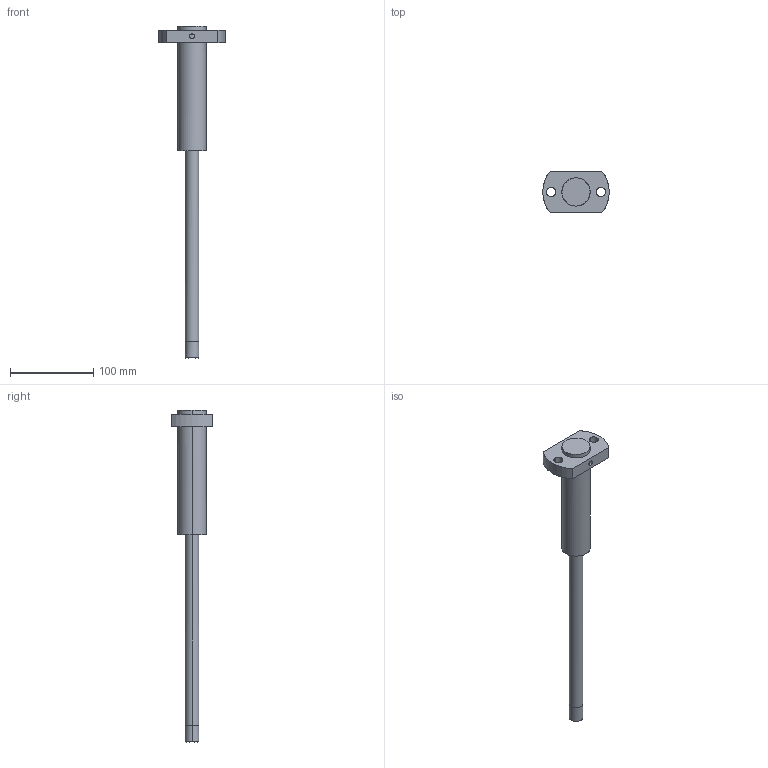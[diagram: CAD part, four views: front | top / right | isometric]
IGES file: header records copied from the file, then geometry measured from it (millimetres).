
Global section: file name: E:\UnigraphicsGraphicData\MISUMI_PRESS-PARTS\IGES\3d_papzu16-250-150-130-350_01714_r00.igs; native system: NX V5.0; preprocessor: UGS NX IGES V5.0; author: MISUMI; date: 20110105.162229; units: millimetre
Bounding box: 80 x 50 x 400 mm (x, y, z)
Surface area: 43734.1 mm2 (no closed solid volume)
Topology: 0 solids, 0 shells, 32 faces, 292 edges, 292 vertices
Faces by surface type: bspline 32
